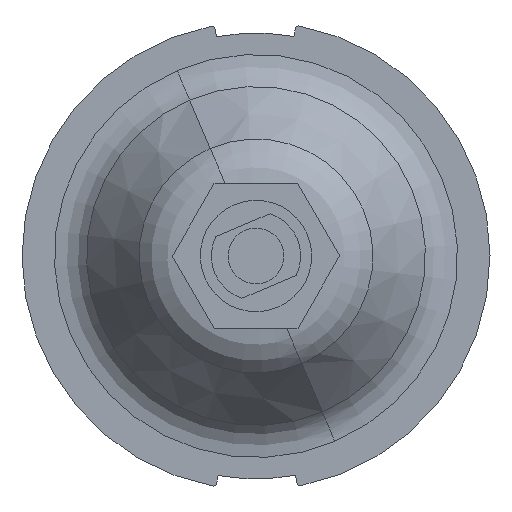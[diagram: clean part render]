
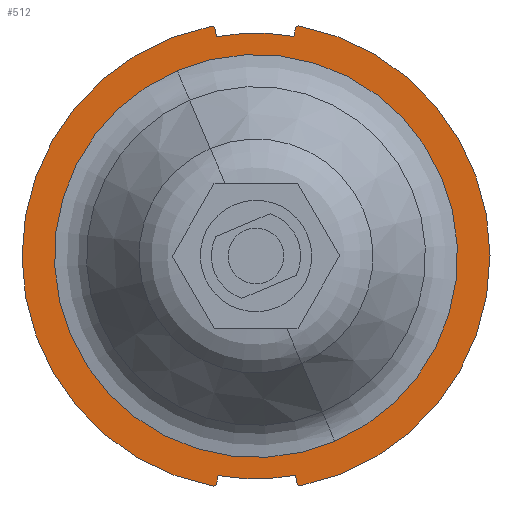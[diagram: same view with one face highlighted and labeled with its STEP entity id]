
A CAD part, front view. The second image highlights one B-rep face of the part: STEP entity #512.
In plain terms, the highlighted planar face has unit normal (0, -1, 0).
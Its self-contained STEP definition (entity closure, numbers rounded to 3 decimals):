
#54=CARTESIAN_POINT('',(0.,-2.869,0.));
#55=DIRECTION('',(0.,-1.,0.));
#56=DIRECTION('',(0.392,0.,-0.92));
#57=AXIS2_PLACEMENT_3D('',#54,#55,#56);
#59=CARTESIAN_POINT('',(0.,-2.869,0.));
#60=DIRECTION('',(0.,-1.,0.));
#61=DIRECTION('',(-0.392,0.,0.92));
#62=AXIS2_PLACEMENT_3D('',#59,#60,#61);
#64=CARTESIAN_POINT('',(-3.815,-2.869,-20.345));
#65=DIRECTION('',(0.,-1.,0.));
#66=DIRECTION('',(-0.184,0.,-0.983));
#67=AXIS2_PLACEMENT_3D('',#64,#65,#66);
#69=CARTESIAN_POINT('',(-3.964,-2.869,20.317));
#70=DIRECTION('',(0.,-1.,0.));
#71=DIRECTION('',(0.984,0.,0.177));
#72=AXIS2_PLACEMENT_3D('',#69,#70,#71);
#74=DIRECTION('',(0.177,0.,-0.984));
#75=VECTOR('',#74,0.698);
#76=CARTESIAN_POINT('',(-3.669,-2.869,20.37));
#77=LINE('',#76,#75);
#78=CARTESIAN_POINT('',(0.,-2.869,0.));
#79=DIRECTION('',(0.,-1.,0.));
#80=DIRECTION('',(0.17,0.,0.985));
#81=AXIS2_PLACEMENT_3D('',#78,#79,#80);
#83=DIRECTION('',(0.17,0.,0.985));
#84=VECTOR('',#83,0.698);
#85=CARTESIAN_POINT('',(3.401,-2.869,19.709));
#86=LINE('',#85,#84);
#87=CARTESIAN_POINT('',(3.815,-2.869,20.345));
#88=DIRECTION('',(0.,-1.,0.));
#89=DIRECTION('',(0.184,0.,0.983));
#90=AXIS2_PLACEMENT_3D('',#87,#88,#89);
#92=CARTESIAN_POINT('',(3.964,-2.869,-20.317));
#93=DIRECTION('',(0.,-1.,0.));
#94=DIRECTION('',(-0.984,0.,-0.177));
#95=AXIS2_PLACEMENT_3D('',#92,#93,#94);
#97=DIRECTION('',(-0.177,0.,0.984));
#98=VECTOR('',#97,0.698);
#99=CARTESIAN_POINT('',(3.669,-2.869,-20.37));
#100=LINE('',#99,#98);
#101=CARTESIAN_POINT('',(0.,-2.869,0.));
#102=DIRECTION('',(0.,-1.,0.));
#103=DIRECTION('',(-0.17,0.,-0.985));
#104=AXIS2_PLACEMENT_3D('',#101,#102,#103);
#106=DIRECTION('',(-0.17,0.,-0.985));
#107=VECTOR('',#106,0.698);
#108=CARTESIAN_POINT('',(-3.401,-2.869,
-19.709));
#109=LINE('',#108,#107);
#276=CARTESIAN_POINT('',(0.,-2.869,0.));
#277=DIRECTION('',(0.,-1.,0.));
#278=DIRECTION('',(-0.191,0.,0.981));
#279=AXIS2_PLACEMENT_3D('',#276,#277,#278);
#285=CARTESIAN_POINT('',(0.,-2.869,0.));
#286=DIRECTION('',(0.,-1.,0.));
#287=DIRECTION('',(0.191,0.,-0.981));
#288=AXIS2_PLACEMENT_3D('',#285,#286,#287);
#323=CARTESIAN_POINT('',(7.082,-2.869,-16.643));
#324=CARTESIAN_POINT('',(-7.082,-2.869,16.643));
#325=VERTEX_POINT('',#323);
#326=VERTEX_POINT('',#324);
#355=CARTESIAN_POINT('',(-3.401,-2.869,
-19.709));
#356=CARTESIAN_POINT('',(3.545,-2.869,-19.683));
#357=VERTEX_POINT('',#355);
#358=VERTEX_POINT('',#356);
#363=CARTESIAN_POINT('',(3.401,-2.869,19.709));
#364=CARTESIAN_POINT('',(-3.545,-2.869,19.683));
#365=VERTEX_POINT('',#363);
#366=VERTEX_POINT('',#364);
#371=CARTESIAN_POINT('',(-3.87,-2.869,
-20.64));
#372=CARTESIAN_POINT('',(-3.519,-2.869,
-20.396));
#373=VERTEX_POINT('',#371);
#374=VERTEX_POINT('',#372);
#383=CARTESIAN_POINT('',(3.669,-2.869,-20.37));
#384=VERTEX_POINT('',#383);
#385=CARTESIAN_POINT('',(4.021,-2.869,-20.611));
#386=VERTEX_POINT('',#385);
#391=CARTESIAN_POINT('',(-3.669,-2.869,20.37));
#392=VERTEX_POINT('',#391);
#393=CARTESIAN_POINT('',(-4.021,-2.869,20.611));
#394=VERTEX_POINT('',#393);
#395=CARTESIAN_POINT('',(3.87,-2.869,20.64));
#396=CARTESIAN_POINT('',(3.519,-2.869,20.396));
#397=VERTEX_POINT('',#395);
#398=VERTEX_POINT('',#396);
#476=CARTESIAN_POINT('',(0.,-2.869,0.));
#477=DIRECTION('',(0.,1.,0.));
#478=DIRECTION('',(0.392,0.,-0.92));
#479=AXIS2_PLACEMENT_3D('',#476,#477,#478);
#480=PLANE('',#479);
#482=ORIENTED_EDGE('',*,*,#481,.F.);
#484=ORIENTED_EDGE('',*,*,#483,.F.);
#486=ORIENTED_EDGE('',*,*,#485,.F.);
#488=ORIENTED_EDGE('',*,*,#487,.T.);
#490=ORIENTED_EDGE('',*,*,#489,.F.);
#492=ORIENTED_EDGE('',*,*,#491,.T.);
#494=ORIENTED_EDGE('',*,*,#493,.F.);
#496=ORIENTED_EDGE('',*,*,#495,.F.);
#498=ORIENTED_EDGE('',*,*,#497,.F.);
#500=ORIENTED_EDGE('',*,*,#499,.T.);
#502=ORIENTED_EDGE('',*,*,#501,.F.);
#504=ORIENTED_EDGE('',*,*,#503,.T.);
#505=EDGE_LOOP('',(#482,#484,#486,#488,#490,#492,#494,#496,#498,#500,#502,
#504));
#506=FACE_OUTER_BOUND('',#505,.F.);
#507=ORIENTED_EDGE('',*,*,#466,.T.);
#509=ORIENTED_EDGE('',*,*,#508,.T.);
#510=EDGE_LOOP('',(#507,#509));
#511=FACE_BOUND('',#510,.F.);
#512=ADVANCED_FACE('',(#506,#511),#480,.F.);
#58=CIRCLE('',#57,18.087);
#63=CIRCLE('',#62,18.087);
#68=CIRCLE('',#67,0.3);
#73=CIRCLE('',#72,0.3);
#82=CIRCLE('',#81,20.);
#91=CIRCLE('',#90,0.3);
#96=CIRCLE('',#95,0.3);
#105=CIRCLE('',#104,20.);
#280=CIRCLE('',#279,21.);
#289=CIRCLE('',#288,21.);
#466=EDGE_CURVE('',#325,#326,#58,.T.);
#481=EDGE_CURVE('',#373,#374,#68,.T.);
#483=EDGE_CURVE('',#394,#373,#280,.T.);
#485=EDGE_CURVE('',#392,#394,#73,.T.);
#487=EDGE_CURVE('',#392,#366,#77,.T.);
#489=EDGE_CURVE('',#365,#366,#82,.T.);
#491=EDGE_CURVE('',#365,#398,#86,.T.);
#493=EDGE_CURVE('',#397,#398,#91,.T.);
#495=EDGE_CURVE('',#386,#397,#289,.T.);
#497=EDGE_CURVE('',#384,#386,#96,.T.);
#499=EDGE_CURVE('',#384,#358,#100,.T.);
#501=EDGE_CURVE('',#357,#358,#105,.T.);
#503=EDGE_CURVE('',#357,#374,#109,.T.);
#508=EDGE_CURVE('',#326,#325,#63,.T.);
